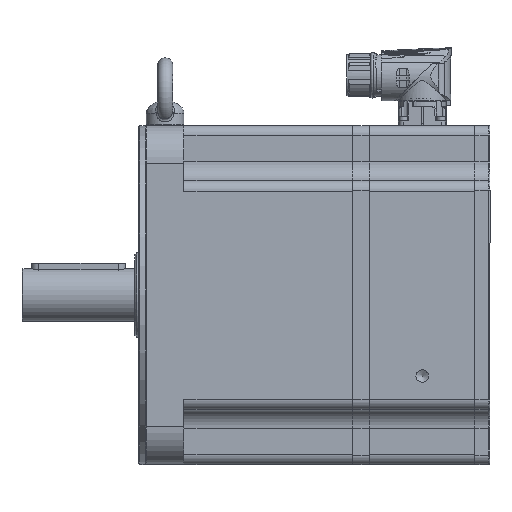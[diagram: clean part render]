
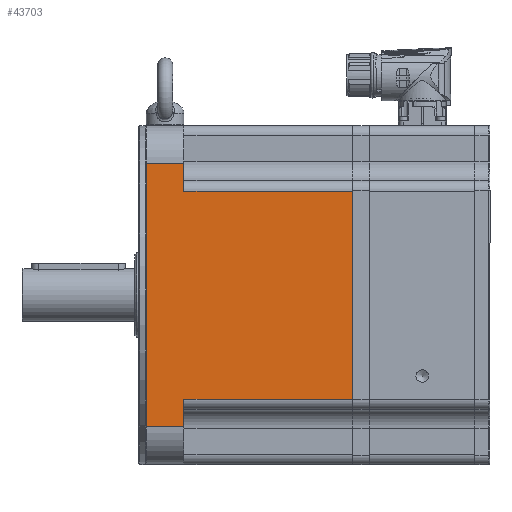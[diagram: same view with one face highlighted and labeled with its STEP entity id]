
A CAD part, left-side view. The second image highlights one B-rep face of the part: STEP entity #43703.
In plain terms, the highlighted planar face has unit normal (-1, 0, 0) as drawn and (1, 0, 0) by its records, which use the part's own axes.
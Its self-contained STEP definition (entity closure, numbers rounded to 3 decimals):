
#724=PLANE('',#46386);
#3661=LINE('',#62698,#5559);
#3675=LINE('',#62778,#5573);
#3682=LINE('',#62823,#5580);
#3690=LINE('',#62847,#5588);
#3691=LINE('',#62848,#5589);
#3692=LINE('',#62850,#5590);
#3693=LINE('',#62852,#5591);
#3694=LINE('',#62853,#5592);
#5559=VECTOR('',#51269,1000.);
#5573=VECTOR('',#51343,1000.);
#5580=VECTOR('',#51388,1000.);
#5588=VECTOR('',#51412,1000.);
#5589=VECTOR('',#51413,1000.);
#5590=VECTOR('',#51414,1000.);
#5591=VECTOR('',#51415,1000.);
#5592=VECTOR('',#51416,1000.);
#9944=ORIENTED_EDGE('',*,*,#17405,.F.);
#9945=ORIENTED_EDGE('',*,*,#17473,.T.);
#9946=ORIENTED_EDGE('',*,*,#17441,.F.);
#9947=ORIENTED_EDGE('',*,*,#17474,.T.);
#9948=ORIENTED_EDGE('',*,*,#17475,.F.);
#9949=ORIENTED_EDGE('',*,*,#17476,.T.);
#9950=ORIENTED_EDGE('',*,*,#17461,.F.);
#9951=ORIENTED_EDGE('',*,*,#17477,.T.);
#17405=EDGE_CURVE('',#21431,#21432,#3661,.T.);
#17441=EDGE_CURVE('',#21467,#21468,#3675,.T.);
#17461=EDGE_CURVE('',#21487,#21488,#3682,.T.);
#17473=EDGE_CURVE('',#21431,#21468,#3690,.F.);
#17474=EDGE_CURVE('',#21467,#21495,#3691,.T.);
#17475=EDGE_CURVE('',#21496,#21495,#3692,.T.);
#17476=EDGE_CURVE('',#21496,#21488,#3693,.F.);
#17477=EDGE_CURVE('',#21487,#21432,#3694,.T.);
#21431=VERTEX_POINT('',#62697);
#21432=VERTEX_POINT('',#62699);
#21467=VERTEX_POINT('',#62777);
#21468=VERTEX_POINT('',#62779);
#21487=VERTEX_POINT('',#62824);
#21488=VERTEX_POINT('',#62825);
#21495=VERTEX_POINT('',#62849);
#21496=VERTEX_POINT('',#62851);
#25426=EDGE_LOOP('',(#9944,#9945,#9946,#9947,#9948,#9949,#9950,#9951));
#28042=FACE_BOUND('',#25426,.T.);
#43703=ADVANCED_FACE('',(#28042),#724,.T.);
#46386=AXIS2_PLACEMENT_3D('',#62846,#51410,#51411);
#51269=DIRECTION('',(0.,0.,-1.));
#51343=DIRECTION('',(0.,0.,-1.));
#51388=DIRECTION('',(0.,0.,-1.));
#51410=DIRECTION('',(1.,0.,0.));
#51411=DIRECTION('',(0.,1.,0.));
#51412=DIRECTION('',(0.,1.,0.));
#51413=DIRECTION('',(0.,-1.,0.));
#51414=DIRECTION('',(0.,0.,1.));
#51415=DIRECTION('',(0.,-1.,0.));
#51416=DIRECTION('',(0.,1.,0.));
#62697=CARTESIAN_POINT('',(90.,110.8,55.2));
#62698=CARTESIAN_POINT('',(90.,110.8,-90.));
#62699=CARTESIAN_POINT('',(90.,110.8,-55.2));
#62777=CARTESIAN_POINT('',(90.,21.3,70.));
#62778=CARTESIAN_POINT('',(90.,21.3,-90.));
#62779=CARTESIAN_POINT('',(90.,21.3,55.2));
#62823=CARTESIAN_POINT('',(90.,21.3,-90.));
#62824=CARTESIAN_POINT('',(90.,21.3,-55.2));
#62825=CARTESIAN_POINT('',(90.,21.3,-70.));
#62846=CARTESIAN_POINT('',(90.,491.763,-90.));
#62847=CARTESIAN_POINT('',(90.,491.763,55.2));
#62848=CARTESIAN_POINT('',(90.,491.763,70.));
#62849=CARTESIAN_POINT('',(90.,1.3,70.));
#62850=CARTESIAN_POINT('',(90.,1.3,-90.));
#62851=CARTESIAN_POINT('',(90.,1.3,-70.));
#62852=CARTESIAN_POINT('',(90.,491.763,-70.));
#62853=CARTESIAN_POINT('',(90.,491.763,-55.2));
